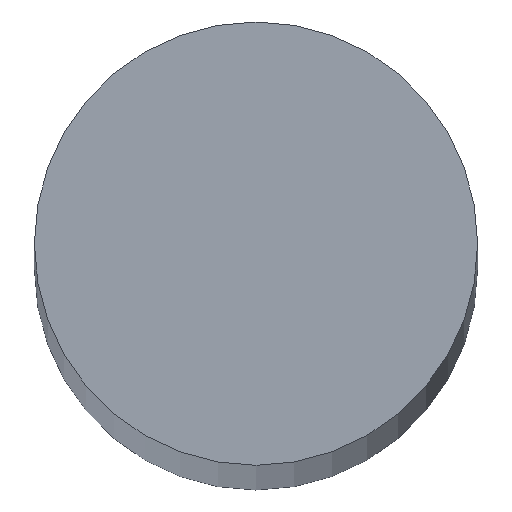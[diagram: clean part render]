
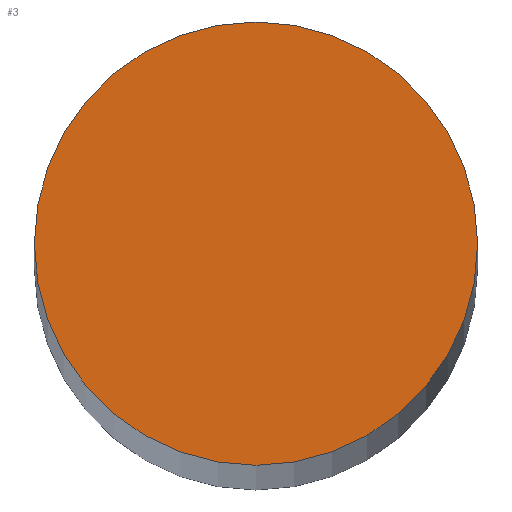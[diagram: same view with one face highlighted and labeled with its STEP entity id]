
A CAD part, top view. The second image highlights one B-rep face of the part: STEP entity #3.
In plain terms, the highlighted planar face has unit normal (0, 0, 1).
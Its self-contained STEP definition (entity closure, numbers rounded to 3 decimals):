
#3 = ADVANCED_FACE ( 'NONE', ( #78 ), #5, .T. ) ;
#5 = PLANE ( 'NONE',  #121 ) ;
#7 = VERTEX_POINT ( 'NONE', #20 ) ;
#10 = VERTEX_POINT ( 'NONE', #24 ) ;
#13 = CARTESIAN_POINT ( 'NONE',  ( 0., 0., 191.5 ) ) ;
#20 = CARTESIAN_POINT ( 'NONE',  ( 6., 0., 191.5 ) ) ;
#21 = DIRECTION ( 'NONE',  ( 0., 0., 1. ) ) ;
#22 = DIRECTION ( 'NONE',  ( 1., 0., 0. ) ) ;
#24 = CARTESIAN_POINT ( 'NONE',  ( -6., 0., 191.5 ) ) ;
#27 = DIRECTION ( 'NONE',  ( 0., 0., 1. ) ) ;
#28 = CARTESIAN_POINT ( 'NONE',  ( 0., 0., 191.5 ) ) ;
#30 = DIRECTION ( 'NONE',  ( 1., 0., 0. ) ) ;
#37 = CARTESIAN_POINT ( 'NONE',  ( 0., 0., 191.5 ) ) ;
#39 = DIRECTION ( 'NONE',  ( 0., 0., 1. ) ) ;
#40 = DIRECTION ( 'NONE',  ( 1., 0., 0. ) ) ;
#78 = FACE_OUTER_BOUND ( 'NONE', #82, .T. ) ;
#82 = EDGE_LOOP ( 'NONE', ( #88, #87 ) ) ;
#87 = ORIENTED_EDGE ( 'NONE', *, *, #128, .T. ) ;
#88 = ORIENTED_EDGE ( 'NONE', *, *, #124, .T. ) ;
#96 = CIRCLE ( 'NONE', #116, 6. ) ;
#99 = CIRCLE ( 'NONE', #136, 6. ) ;
#116 = AXIS2_PLACEMENT_3D ( 'NONE', #28, #27, #30 ) ;
#121 = AXIS2_PLACEMENT_3D ( 'NONE', #13, #21, #22 ) ;
#124 = EDGE_CURVE ( 'NONE', #10, #7, #96, .T. ) ;
#128 = EDGE_CURVE ( 'NONE', #7, #10, #99, .T. ) ;
#136 = AXIS2_PLACEMENT_3D ( 'NONE', #37, #39, #40 ) ;
